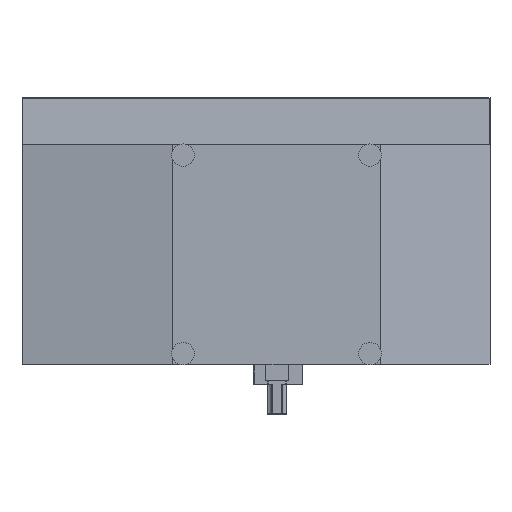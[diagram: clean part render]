
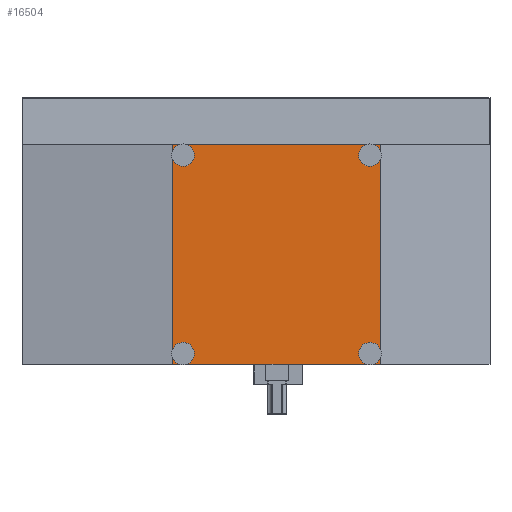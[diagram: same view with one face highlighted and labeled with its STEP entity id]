
A CAD part, front view. The second image highlights one B-rep face of the part: STEP entity #16504.
In plain terms, the highlighted planar face has unit normal (0, -1, 0).
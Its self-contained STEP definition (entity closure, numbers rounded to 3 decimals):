
#431 = EDGE_CURVE ( 'NONE', #15487, #15488, #6745, .T. ) ;
#439 = EDGE_CURVE ( 'NONE', #15495, #15496, #6757, .T. ) ;
#447 = EDGE_CURVE ( 'NONE', #15503, #15504, #6769, .T. ) ;
#455 = EDGE_CURVE ( 'NONE', #15511, #15512, #6781, .T. ) ;
#479 = EDGE_CURVE ( 'NONE', #15496, #15495, #6828, .T. ) ;
#480 = EDGE_CURVE ( 'NONE', #15512, #15511, #6832, .T. ) ;
#481 = EDGE_CURVE ( 'NONE', #15534, #15537, #6833, .T. ) ;
#482 = EDGE_CURVE ( 'NONE', #15538, #15534, #6830, .T. ) ;
#483 = EDGE_CURVE ( 'NONE', #15540, #15538, #6834, .T. ) ;
#484 = EDGE_CURVE ( 'NONE', #15537, #15540, #6836, .T. ) ;
#485 = EDGE_CURVE ( 'NONE', #15504, #15503, #6838, .T. ) ;
#486 = EDGE_CURVE ( 'NONE', #15488, #15487, #6842, .T. ) ;
#1500 = EDGE_LOOP ( 'NONE', ( #3064, #3065 ) ) ;
#1502 = EDGE_LOOP ( 'NONE', ( #3066, #3067 ) ) ;
#1503 = EDGE_LOOP ( 'NONE', ( #3072, #3073 ) ) ;
#1505 = EDGE_LOOP ( 'NONE', ( #3068, #3069, #3070, #3071 ) ) ;
#1506 = EDGE_LOOP ( 'NONE', ( #3074, #3075 ) ) ;
#3064 = ORIENTED_EDGE ( 'NONE', *, *, #479, .T. ) ;
#3065 = ORIENTED_EDGE ( 'NONE', *, *, #439, .T. ) ;
#3066 = ORIENTED_EDGE ( 'NONE', *, *, #480, .T. ) ;
#3067 = ORIENTED_EDGE ( 'NONE', *, *, #455, .T. ) ;
#3068 = ORIENTED_EDGE ( 'NONE', *, *, #481, .F. ) ;
#3069 = ORIENTED_EDGE ( 'NONE', *, *, #482, .F. ) ;
#3070 = ORIENTED_EDGE ( 'NONE', *, *, #483, .F. ) ;
#3071 = ORIENTED_EDGE ( 'NONE', *, *, #484, .F. ) ;
#3072 = ORIENTED_EDGE ( 'NONE', *, *, #485, .T. ) ;
#3073 = ORIENTED_EDGE ( 'NONE', *, *, #447, .T. ) ;
#3074 = ORIENTED_EDGE ( 'NONE', *, *, #486, .T. ) ;
#3075 = ORIENTED_EDGE ( 'NONE', *, *, #431, .T. ) ;
#4250 = AXIS2_PLACEMENT_3D ( 'NONE', #6499, #6500, #6501 ) ;
#4254 = AXIS2_PLACEMENT_3D ( 'NONE', #7688, #7689, #7690 ) ;
#4258 = AXIS2_PLACEMENT_3D ( 'NONE', #7708, #7709, #7710 ) ;
#4262 = AXIS2_PLACEMENT_3D ( 'NONE', #7728, #7729, #7730 ) ;
#4264 = AXIS2_PLACEMENT_3D ( 'NONE', #7777, #7778, #7779 ) ;
#4265 = AXIS2_PLACEMENT_3D ( 'NONE', #7782, #7783, #7784 ) ;
#4266 = AXIS2_PLACEMENT_3D ( 'NONE', #7789, #7790, #7791 ) ;
#4267 = AXIS2_PLACEMENT_3D ( 'NONE', #7792, #7793, #7794 ) ;
#6499 = CARTESIAN_POINT ( 'NONE',  ( -405., 83., 430. ) ) ;
#6500 = DIRECTION ( 'NONE',  ( 0., 1., 0. ) ) ;
#6501 = DIRECTION ( 'NONE',  ( 0., 0., 1. ) ) ;
#6745 = CIRCLE ( 'NONE', #4250, 25. ) ;
#6757 = CIRCLE ( 'NONE', #4254, 25. ) ;
#6769 = CIRCLE ( 'NONE', #4258, 25. ) ;
#6781 = CIRCLE ( 'NONE', #4262, 25. ) ;
#6828 = CIRCLE ( 'NONE', #4264, 25. ) ;
#6830 = LINE ( 'NONE', #7781, #6837 ) ;
#6832 = CIRCLE ( 'NONE', #4265, 25. ) ;
#6833 = LINE ( 'NONE', #7775, #6835 ) ;
#6834 = LINE ( 'NONE', #7780, #6839 ) ;
#6835 = VECTOR ( 'NONE', #7776, 1000. ) ;
#6836 = LINE ( 'NONE', #7785, #6841 ) ;
#6837 = VECTOR ( 'NONE', #7786, 1000. ) ;
#6838 = CIRCLE ( 'NONE', #4266, 25. ) ;
#6839 = VECTOR ( 'NONE', #7787, 1000. ) ;
#6841 = VECTOR ( 'NONE', #7788, 1000. ) ;
#6842 = CIRCLE ( 'NONE', #4267, 25. ) ;
#7688 = CARTESIAN_POINT ( 'NONE',  ( 405., 83., 430. ) ) ;
#7689 = DIRECTION ( 'NONE',  ( 0., 1., 0. ) ) ;
#7690 = DIRECTION ( 'NONE',  ( 0., 0., 1. ) ) ;
#7708 = CARTESIAN_POINT ( 'NONE',  ( 405., 83., -430. ) ) ;
#7709 = DIRECTION ( 'NONE',  ( 0., 1., 0. ) ) ;
#7710 = DIRECTION ( 'NONE',  ( 0., 0., 1. ) ) ;
#7728 = CARTESIAN_POINT ( 'NONE',  ( -405., 83., -430. ) ) ;
#7729 = DIRECTION ( 'NONE',  ( 0., 1., 0. ) ) ;
#7730 = DIRECTION ( 'NONE',  ( 0., 0., 1. ) ) ;
#7775 = CARTESIAN_POINT ( 'NONE',  ( 450., 83., 475. ) ) ;
#7776 = DIRECTION ( 'NONE',  ( 0., 0., -1. ) ) ;
#7777 = CARTESIAN_POINT ( 'NONE',  ( 405., 83., 430. ) ) ;
#7778 = DIRECTION ( 'NONE',  ( 0., 1., 0. ) ) ;
#7779 = DIRECTION ( 'NONE',  ( 0., 0., 1. ) ) ;
#7780 = CARTESIAN_POINT ( 'NONE',  ( -450., 83., 475. ) ) ;
#7781 = CARTESIAN_POINT ( 'NONE',  ( -450., 83., 475. ) ) ;
#7782 = CARTESIAN_POINT ( 'NONE',  ( -405., 83., -430. ) ) ;
#7783 = DIRECTION ( 'NONE',  ( 0., 1., 0. ) ) ;
#7784 = DIRECTION ( 'NONE',  ( 0., 0., 1. ) ) ;
#7785 = CARTESIAN_POINT ( 'NONE',  ( -450., 83., -475. ) ) ;
#7786 = DIRECTION ( 'NONE',  ( 1., 0., 0. ) ) ;
#7787 = DIRECTION ( 'NONE',  ( 0., 0., 1. ) ) ;
#7788 = DIRECTION ( 'NONE',  ( -1., 0., 0. ) ) ;
#7789 = CARTESIAN_POINT ( 'NONE',  ( 405., 83., -430. ) ) ;
#7790 = DIRECTION ( 'NONE',  ( 0., 1., 0. ) ) ;
#7791 = DIRECTION ( 'NONE',  ( 0., 0., 1. ) ) ;
#7792 = CARTESIAN_POINT ( 'NONE',  ( -405., 83., 430. ) ) ;
#7793 = DIRECTION ( 'NONE',  ( 0., 1., 0. ) ) ;
#7794 = DIRECTION ( 'NONE',  ( 0., 0., 1. ) ) ;
#11648 = CARTESIAN_POINT ( 'NONE',  ( -405., 83., 455. ) ) ;
#11649 = CARTESIAN_POINT ( 'NONE',  ( -405., 83., 405. ) ) ;
#11656 = CARTESIAN_POINT ( 'NONE',  ( 405., 83., 455. ) ) ;
#11657 = CARTESIAN_POINT ( 'NONE',  ( 405., 83., 405. ) ) ;
#11664 = CARTESIAN_POINT ( 'NONE',  ( 405., 83., -405. ) ) ;
#11665 = CARTESIAN_POINT ( 'NONE',  ( 405., 83., -455. ) ) ;
#11672 = CARTESIAN_POINT ( 'NONE',  ( -405., 83., -405. ) ) ;
#11673 = CARTESIAN_POINT ( 'NONE',  ( -405., 83., -455. ) ) ;
#11695 = CARTESIAN_POINT ( 'NONE',  ( 450., 83., 475. ) ) ;
#11698 = CARTESIAN_POINT ( 'NONE',  ( 450., 83., -475. ) ) ;
#11699 = CARTESIAN_POINT ( 'NONE',  ( -450., 83., 475. ) ) ;
#11701 = CARTESIAN_POINT ( 'NONE',  ( -450., 83., -475. ) ) ;
#13505 = FACE_BOUND ( 'NONE', #1500, .T. ) ;
#13506 = FACE_OUTER_BOUND ( 'NONE', #1505, .T. ) ;
#13507 = FACE_BOUND ( 'NONE', #1506, .T. ) ;
#13508 = FACE_BOUND ( 'NONE', #1503, .T. ) ;
#13509 = FACE_BOUND ( 'NONE', #1502, .T. ) ;
#14233 = DIRECTION ( 'NONE',  ( 0., -1., 0. ) ) ;
#14237 = PLANE ( 'NONE',  #14933 ) ;
#14238 = CARTESIAN_POINT ( 'NONE',  ( 0., 83., 0. ) ) ;
#14240 = DIRECTION ( 'NONE',  ( 0., 0., -1. ) ) ;
#14933 = AXIS2_PLACEMENT_3D ( 'NONE', #14238, #14233, #14240 ) ;
#15487 = VERTEX_POINT ( 'NONE', #11648 ) ;
#15488 = VERTEX_POINT ( 'NONE', #11649 ) ;
#15495 = VERTEX_POINT ( 'NONE', #11656 ) ;
#15496 = VERTEX_POINT ( 'NONE', #11657 ) ;
#15503 = VERTEX_POINT ( 'NONE', #11664 ) ;
#15504 = VERTEX_POINT ( 'NONE', #11665 ) ;
#15511 = VERTEX_POINT ( 'NONE', #11672 ) ;
#15512 = VERTEX_POINT ( 'NONE', #11673 ) ;
#15534 = VERTEX_POINT ( 'NONE', #11695 ) ;
#15537 = VERTEX_POINT ( 'NONE', #11698 ) ;
#15538 = VERTEX_POINT ( 'NONE', #11699 ) ;
#15540 = VERTEX_POINT ( 'NONE', #11701 ) ;
#16504 = ADVANCED_FACE ( 'NONE', ( #13505, #13509, #13506, #13508, #13507 ), #14237, .T. ) ;
